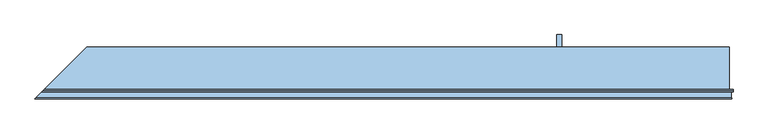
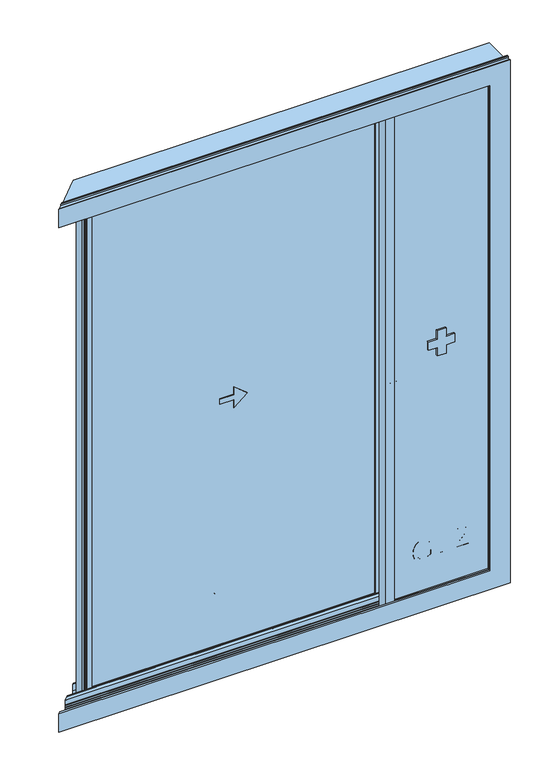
"""IFC4 building model written with IfcOpenShell, lengths in millimetres: window geometry, XL_XHS-9_Hoek_Links_Metaglas : XL_XHS-9_Hoek_Links_Metaglas."""

from ifc_helpers import new_model, si_unit, point, frame, frame_2d, origin, place, context, project, spatial, polyline, circle_curve, trimmed, segment, composite_curve, outline, extrude, faceted_brep, source, transform, mapped, element, save


def window_269518a1(model_context):
    return source(origin(), model_context, "Body", "SolidModel", [
        extrude(outline(polyline([(269.2407462, -113.5122122), (281.7977849, -113.5122122), (281.7977849, -154.3225882), (244.2492959, -154.3225882), (232.4034957, -134.1749176), (228.4303702, -112.87455), (230.009197, -98.7877353), (234.7456777, -86.0559526), (242.4742653, -75.4793452), (253.0294129, -67.8580566), (265.6906849, -63.2503346), (279.7376457, -61.7144272), (293.8857741, -63.2442032), (307.0467525, -67.8335311), (318.0862781, -75.2923385), (325.8700479, -85.4305532), (330.486967, -97.7791255), (332.02594, -111.8690059), (328.4574846, -131.5139045), (318.5246708, -145.2849538), (301.9086673, -152.8755856), (298.6467803, -141.2995655), (310.2595886, -135.5728691), (316.9550409, -125.7872081), (319.4689012, -111.6728022), (316.7588372, -95.596359), (309.646452, -84.658001), (299.9711555, -78.1955406), (280.2526805, -74.271466), (258.3637018, -78.9926183), (245.2671028, -92.7268794), (240.9874089, -111.8690059), (244.2125077, -129.0490951), (251.0919011, -141.7655494), (269.2407462, -141.7655494), (269.2407462, -113.5122122)])), frame((0.0, 101.0, 0.0), z_axis=(0.0, 1.0, 0.0), x_axis=(0.0, 0.0, 1.0)), (0.0, 0.0, 1.0), 5.0),
        extrude(outline(polyline([(230.0, -174.7277762), (330.4563101, -174.7277762), (330.4563101, -187.2848149), (242.5570388, -187.2848149), (242.5570388, -237.51297), (230.0, -237.51297), (230.0, -174.7277762)])), frame((0.0, 101.0, 0.0), z_axis=(0.0, 1.0, 0.0), x_axis=(0.0, 0.0, 1.0)), (0.0, 0.0, 1.0), 5.0),
        extrude(outline(polyline([(242.5570388, -311.2855728), (230.0, -311.2855728), (230.0, -245.3611192), (238.6574896, -246.7100199), (251.9870806, -254.3497026), (266.5429449, -270.0827893), (287.4631676, -291.7510388), (301.6879381, -297.1589041), (313.2026446, -292.0453444), (317.8992714, -278.691228), (313.3130092, -264.7730258), (300.6333431, -259.4877878), (302.2029729, -246.9307491), (314.3492101, -249.9749726), (323.2212976, -256.5569946), (328.647557, -266.3334586), (330.4563101, -278.9610081), (328.4452219, -291.6805281), (322.4119572, -301.438598), (313.3988483, -307.6466067), (302.4482276, -309.7159429), (290.5411137, -307.4841255), (278.2293296, -300.0651719), (261.0247149, -282.0757423), (248.9459228, -267.6302427), (242.5570388, -261.9648599), (242.5570388, -311.2855728)])), frame((0.0, 101.0, 0.0), z_axis=(0.0, 1.0, 0.0), x_axis=(0.0, 0.0, 1.0)), (0.0, 0.0, 1.0), 5.0),
        extrude(outline(polyline([(80.0, -837.0), (80.0, 464.0), (2422.0, 464.0), (2422.0, -837.0), (80.0, -837.0)]), holes=[polyline([(2409.0, -824.0), (2409.0, 451.0), (93.0, 451.0), (93.0, -824.0), (2409.0, -824.0)])]), frame((0.0, 76.0, 0.0), z_axis=(0.0, 1.0, 0.0), x_axis=(0.0, 0.0, 1.0)), (0.0, 0.0, 1.0), 25.0),
        extrude(outline(polyline([(464.0, 104.0), (-837.0, 104.0), (-837.0, 107.0), (464.0, 107.0), (464.0, 104.0)])), frame((0.0, 0.0, 80.0), z_axis=(0.0, 0.0, 1.0), x_axis=(1.0, 0.0, 0.0)), (0.0, 0.0, 1.0), 2342.0),
        extrude(outline(polyline([(464.0, 101.0), (-837.0, 101.0), (-837.0, 104.0), (464.0, 104.0), (464.0, 101.0)])), frame((0.0, 0.0, 80.0), z_axis=(0.0, 0.0, 1.0), x_axis=(1.0, 0.0, 0.0)), (0.0, 0.0, 1.0), 2342.0),
        extrude(outline(polyline([(464.0, 68.0), (-837.0, 68.0), (-837.0, 72.0), (464.0, 72.0), (464.0, 68.0)])), frame((0.0, 0.0, 80.0), z_axis=(0.0, 0.0, 1.0), x_axis=(1.0, 0.0, 0.0)), (0.0, 0.0, 1.0), 2342.0),
        extrude(outline(polyline([(464.0, 72.0), (-837.0, 72.0), (-837.0, 76.0), (464.0, 76.0), (464.0, 72.0)])), frame((0.0, 0.0, 80.0), z_axis=(0.0, 0.0, 1.0), x_axis=(1.0, 0.0, 0.0)), (0.0, 0.0, 1.0), 2342.0),
        faceted_brep([(465.0, 76.0, 79.0), (465.0, 104.5, 79.0), (-838.0, 104.5, 79.0), (-838.0, 76.0, 79.0), (471.0, 102.3, 73.0), (471.0, 76.0, 73.0), (-844.0, 76.0, 73.0), (-844.0, 102.3, 73.0), (477.5, 76.0, 66.5), (477.5, 102.3, 66.5), (-850.5, 102.3, 66.5), (-850.5, 76.0, 66.5), (483.5, 104.5, 60.5), (483.5, 76.0, 60.5), (-856.5, 76.0, 60.5), (-856.5, 104.5, 60.5), (-838.0, 104.5, 2423.0), (-838.0, 76.0, 2423.0), (-844.0, 76.0, 2429.0), (-844.0, 102.3, 2429.0), (-850.5, 102.3, 2435.5), (-850.5, 76.0, 2435.5), (-856.5, 76.0, 2441.5), (-856.5, 104.5, 2441.5), (465.0, 104.5, 2423.0), (465.0, 76.0, 2423.0), (471.0, 76.0, 2429.0), (471.0, 102.3, 2429.0), (477.5, 102.3, 2435.5), (477.5, 76.0, 2435.5), (483.5, 76.0, 2441.5), (483.5, 104.5, 2441.5)], [[[0, 1, 2, 3]], [[4, 5, 6, 7]], [[8, 9, 10, 11]], [[12, 13, 14, 15]], [[3, 2, 16, 17]], [[7, 6, 18, 19]], [[11, 10, 20, 21]], [[15, 14, 22, 23]], [[17, 16, 24, 25]], [[19, 18, 26, 27]], [[21, 20, 28, 29]], [[23, 22, 30, 31]], [[15, 23, 31, 12], [1, 24, 16, 2]], [[25, 24, 1, 0]], [[5, 26, 18, 6], [3, 17, 25, 0]], [[27, 26, 5, 4]], [[9, 28, 20, 10], [7, 19, 27, 4]], [[29, 28, 9, 8]], [[13, 30, 22, 14], [11, 21, 29, 8]], [[31, 30, 13, 12]]]),
        faceted_brep([(451.5, 64.0, 92.5), (451.5, 74.5, 92.5), (-824.5, 74.5, 92.5), (-824.5, 64.0, 92.5), (477.5, 65.5, 66.5), (477.5, 64.0, 66.5), (-850.5, 64.0, 66.5), (-850.5, 65.5, 66.5), (469.5, 69.5, 74.5), (469.5, 65.5, 74.5), (-842.5, 65.5, 74.5), (-842.5, 69.5, 74.5), (477.5, 83.0, 66.5), (477.5, 69.5, 66.5), (-850.5, 69.5, 66.5), (-850.5, 83.0, 66.5), (476.0, 78.0, 68.0), (476.0, 83.0, 68.0), (-849.0, 83.0, 68.0), (-849.0, 78.0, 68.0), (473.0, 96.0, 71.0), (473.0, 78.0, 71.0), (-846.0, 78.0, 71.0), (-846.0, 96.0, 71.0), (476.0, 91.0, 68.0), (476.0, 96.0, 68.0), (-849.0, 96.0, 68.0), (-849.0, 91.0, 68.0), (477.5, 98.0, 66.5), (477.5, 91.0, 66.5), (-850.5, 91.0, 66.5), (-850.5, 98.0, 66.5), (471.5, 76.0, 72.5), (471.5, 98.0, 72.5), (-844.5, 98.0, 72.5), (-844.5, 76.0, 72.5), (474.0, 71.5, 70.0), (474.0, 76.0, 70.0), (-847.0, 76.0, 70.0), (-847.0, 71.5, 70.0), (467.5, 69.3, 76.5), (467.5, 71.5, 76.5), (-840.5, 71.5, 76.5), (-840.5, 69.3, 76.5), (464.5, 67.8, 79.5), (464.5, 69.3, 79.5), (-837.5, 69.3, 79.5), (-837.5, 67.8, 79.5), (467.5, 65.5, 76.5), (467.5, 67.8, 76.5), (-840.5, 67.8, 76.5), (-840.5, 65.5, 76.5), (453.5, 67.8, 90.5), (453.5, 65.5, 90.5), (-826.5, 65.5, 90.5), (-826.5, 67.8, 90.5), (455.5, 69.3, 88.5), (455.5, 67.8, 88.5), (-828.5, 67.8, 88.5), (-828.5, 69.3, 88.5), (453.5, 72.5, 90.5), (453.5, 69.3, 90.5), (-826.5, 69.3, 90.5), (-826.5, 72.5, 90.5), (461.5, 74.5, 82.5), (461.5, 72.5, 82.5), (-834.5, 72.5, 82.5), (-834.5, 74.5, 82.5), (-824.5, 74.5, 2409.5), (-824.5, 64.0, 2409.5), (-850.5, 64.0, 2435.5), (-850.5, 65.5, 2435.5), (-842.5, 65.5, 2427.5), (-842.5, 69.5, 2427.5), (-850.5, 69.5, 2435.5), (-850.5, 83.0, 2435.5), (-849.0, 83.0, 2434.0), (-849.0, 78.0, 2434.0), (-846.0, 78.0, 2431.0), (-846.0, 96.0, 2431.0), (-849.0, 96.0, 2434.0), (-849.0, 91.0, 2434.0), (-850.5, 91.0, 2435.5), (-850.5, 98.0, 2435.5), (-844.5, 98.0, 2429.5), (-844.5, 76.0, 2429.5), (-847.0, 76.0, 2432.0), (-847.0, 71.5, 2432.0), (-840.5, 71.5, 2425.5), (-840.5, 69.3, 2425.5), (-837.5, 69.3, 2422.5), (-837.5, 67.8, 2422.5), (-840.5, 67.8, 2425.5), (-840.5, 65.5, 2425.5), (-826.5, 65.5, 2411.5), (-826.5, 67.8, 2411.5), (-828.5, 67.8, 2413.5), (-828.5, 69.3, 2413.5), (-826.5, 69.3, 2411.5), (-826.5, 72.5, 2411.5), (-834.5, 72.5, 2419.5), (-834.5, 74.5, 2419.5), (451.5, 74.5, 2409.5), (451.5, 64.0, 2409.5), (477.5, 64.0, 2435.5), (477.5, 65.5, 2435.5), (469.5, 65.5, 2427.5), (469.5, 69.5, 2427.5), (477.5, 69.5, 2435.5), (477.5, 83.0, 2435.5), (476.0, 83.0, 2434.0), (476.0, 78.0, 2434.0), (473.0, 78.0, 2431.0), (473.0, 96.0, 2431.0), (476.0, 96.0, 2434.0), (476.0, 91.0, 2434.0), (477.5, 91.0, 2435.5), (477.5, 98.0, 2435.5), (471.5, 98.0, 2429.5), (471.5, 76.0, 2429.5), (474.0, 76.0, 2432.0), (474.0, 71.5, 2432.0), (467.5, 71.5, 2425.5), (467.5, 69.3, 2425.5), (464.5, 69.3, 2422.5), (464.5, 67.8, 2422.5), (467.5, 67.8, 2425.5), (467.5, 65.5, 2425.5), (453.5, 65.5, 2411.5), (453.5, 67.8, 2411.5), (455.5, 67.8, 2413.5), (455.5, 69.3, 2413.5), (453.5, 69.3, 2411.5), (453.5, 72.5, 2411.5), (461.5, 72.5, 2419.5), (461.5, 74.5, 2419.5)], [[[0, 1, 2, 3]], [[4, 5, 6, 7]], [[8, 9, 10, 11]], [[12, 13, 14, 15]], [[16, 17, 18, 19]], [[20, 21, 22, 23]], [[24, 25, 26, 27]], [[28, 29, 30, 31]], [[32, 33, 34, 35]], [[36, 37, 38, 39]], [[40, 41, 42, 43]], [[44, 45, 46, 47]], [[48, 49, 50, 51]], [[52, 53, 54, 55]], [[56, 57, 58, 59]], [[60, 61, 62, 63]], [[64, 65, 66, 67]], [[3, 2, 68, 69]], [[7, 6, 70, 71]], [[11, 10, 72, 73]], [[15, 14, 74, 75]], [[19, 18, 76, 77]], [[23, 22, 78, 79]], [[27, 26, 80, 81]], [[31, 30, 82, 83]], [[35, 34, 84, 85]], [[39, 38, 86, 87]], [[43, 42, 88, 89]], [[47, 46, 90, 91]], [[51, 50, 92, 93]], [[55, 54, 94, 95]], [[59, 58, 96, 97]], [[63, 62, 98, 99]], [[67, 66, 100, 101]], [[69, 68, 102, 103]], [[71, 70, 104, 105]], [[73, 72, 106, 107]], [[75, 74, 108, 109]], [[77, 76, 110, 111]], [[79, 78, 112, 113]], [[81, 80, 114, 115]], [[83, 82, 116, 117]], [[85, 84, 118, 119]], [[87, 86, 120, 121]], [[89, 88, 122, 123]], [[91, 90, 124, 125]], [[93, 92, 126, 127]], [[95, 94, 128, 129]], [[97, 96, 130, 131]], [[99, 98, 132, 133]], [[101, 100, 134, 135]], [[103, 102, 1, 0]], [[5, 104, 70, 6], [3, 69, 103, 0]], [[105, 104, 5, 4]], [[7, 71, 105, 4], [9, 106, 72, 10]], [[107, 106, 9, 8]], [[13, 108, 74, 14], [11, 73, 107, 8]], [[109, 108, 13, 12]], [[15, 75, 109, 12], [17, 110, 76, 18]], [[111, 110, 17, 16]], [[19, 77, 111, 16], [21, 112, 78, 22]], [[113, 112, 21, 20]], [[25, 114, 80, 26], [23, 79, 113, 20]], [[115, 114, 25, 24]], [[29, 116, 82, 30], [27, 81, 115, 24]], [[117, 116, 29, 28]], [[31, 83, 117, 28], [33, 118, 84, 34]], [[119, 118, 33, 32]], [[37, 120, 86, 38], [35, 85, 119, 32]], [[121, 120, 37, 36]], [[39, 87, 121, 36], [41, 122, 88, 42]], [[123, 122, 41, 40]], [[43, 89, 123, 40], [45, 124, 90, 46]], [[125, 124, 45, 44]], [[49, 126, 92, 50], [47, 91, 125, 44]], [[127, 126, 49, 48]], [[51, 93, 127, 48], [53, 128, 94, 54]], [[129, 128, 53, 52]], [[57, 130, 96, 58], [55, 95, 129, 52]], [[131, 130, 57, 56]], [[59, 97, 131, 56], [61, 132, 98, 62]], [[133, 132, 61, 60]], [[65, 134, 100, 66], [63, 99, 133, 60]], [[135, 134, 65, 64]], [[67, 101, 135, 64], [1, 102, 68, 2]]]),
        faceted_brep([(451.0, 110.0, 2409.0), (451.0, 116.0, 2409.0), (451.0, 116.0, 93.0), (451.0, 110.0, 93.0), (466.1, 113.5, 2424.1), (466.1, 110.0, 2424.1), (466.1, 110.0, 77.9), (466.1, 113.5, 77.9), (483.6, 69.5, 2441.6), (483.6, 113.5, 2441.6), (483.6, 113.5, 60.4), (483.6, 69.5, 60.4), (493.0, 116.0, 2451.0), (493.0, 69.5, 2451.0), (493.0, 69.5, 51.0), (493.0, 116.0, 51.0), (-824.0, 116.0, 93.0), (-824.0, 110.0, 93.0), (-839.1, 110.0, 77.9), (-839.1, 113.5, 77.9), (-856.6, 113.5, 60.4), (-856.6, 69.5, 60.4), (-866.0, 69.5, 51.0), (-866.0, 116.0, 51.0), (-824.0, 116.0, 2409.0), (-824.0, 110.0, 2409.0), (-839.1, 110.0, 2424.1), (-839.1, 113.5, 2424.1), (-856.6, 113.5, 2441.6), (-856.6, 69.5, 2441.6), (-866.0, 69.5, 2451.0), (-866.0, 116.0, 2451.0)], [[[0, 1, 2, 3]], [[4, 5, 6, 7]], [[8, 9, 10, 11]], [[12, 13, 14, 15]], [[3, 2, 16, 17]], [[7, 6, 18, 19]], [[11, 10, 20, 21]], [[15, 14, 22, 23]], [[17, 16, 24, 25]], [[19, 18, 26, 27]], [[21, 20, 28, 29]], [[23, 22, 30, 31]], [[25, 24, 1, 0]], [[5, 26, 18, 6], [3, 17, 25, 0]], [[27, 26, 5, 4]], [[9, 28, 20, 10], [7, 19, 27, 4]], [[29, 28, 9, 8]], [[13, 30, 22, 14], [11, 21, 29, 8]], [[31, 30, 13, 12]], [[15, 23, 31, 12], [1, 24, 16, 2]]]),
        extrude(outline(polyline([(269.2407462, 632.5122122), (269.2407462, 660.7655494), (251.0919011, 660.7655494), (244.2125077, 648.0490951), (240.9874089, 630.8690059), (245.2671028, 611.7268794), (258.3637018, 597.9926183), (280.2526805, 593.271466), (299.9711555, 597.1955406), (309.646452, 603.658001), (316.7588372, 614.596359), (319.4689012, 630.6728022), (316.9550409, 644.7872081), (310.2595886, 654.5728691), (298.6467803, 660.2995655), (301.9086673, 671.8755856), (318.5246708, 664.2849538), (328.4574846, 650.5139045), (332.02594, 630.8690059), (330.486967, 616.7791255), (325.8700479, 604.4305532), (318.0862781, 594.2923385), (307.0467525, 586.8335311), (293.8857741, 582.2442032), (279.7376457, 580.7144272), (265.6906849, 582.2503346), (253.0294129, 586.8580566), (242.4742653, 594.4793452), (234.7456777, 605.0559526), (230.009197, 617.7877353), (228.4303702, 631.87455), (232.4034957, 653.1749176), (244.2492959, 673.3225882), (281.7977849, 673.3225882), (281.7977849, 632.5122122), (269.2407462, 632.5122122)])), frame((0.0, -6.0, 0.0), z_axis=(0.0, 1.0, 0.0), x_axis=(0.0, 0.0, 1.0)), (0.0, 0.0, 1.0), 5.0),
        extrude(outline(polyline([(230.0, 693.7277762), (230.0, 756.51297), (242.5570388, 756.51297), (242.5570388, 706.2848149), (330.4563101, 706.2848149), (330.4563101, 693.7277762), (230.0, 693.7277762)])), frame((0.0, -6.0, 0.0), z_axis=(0.0, 1.0, 0.0), x_axis=(0.0, 0.0, 1.0)), (0.0, 0.0, 1.0), 5.0),
        extrude(outline(polyline([(242.5570388, 830.2855728), (242.5570388, 780.9648599), (248.9459228, 786.6302427), (261.0247149, 801.0757423), (278.2293296, 819.0651719), (290.5411137, 826.4841255), (302.4482276, 828.7159429), (313.3988483, 826.6466067), (322.4119572, 820.438598), (328.4452219, 810.6805281), (330.4563101, 797.9610081), (328.647557, 785.3334586), (323.2212976, 775.5569946), (314.3492101, 768.9749726), (302.2029729, 765.9307491), (300.6333431, 778.4877878), (313.3130092, 783.7730258), (317.8992714, 797.691228), (313.2026446, 811.0453444), (301.6879381, 816.1589041), (287.4631676, 810.7510388), (266.5429449, 789.0827893), (251.9870806, 773.3497026), (238.6574896, 765.7100199), (230.0, 764.3611192), (230.0, 830.2855728), (242.5570388, 830.2855728)])), frame((0.0, -6.0, 0.0), z_axis=(0.0, 1.0, 0.0), x_axis=(0.0, 0.0, 1.0)), (0.0, 0.0, 1.0), 5.0),
        extrude(outline(polyline([(2422.0, 931.0), (2422.0, 480.0), (80.0, 480.0), (80.0, 931.0), (2422.0, 931.0)]), holes=[polyline([(93.0, 918.0), (93.0, 493.0), (2409.0, 493.0), (2409.0, 918.0), (93.0, 918.0)])]), frame((0.0, -1.0, 0.0), z_axis=(0.0, 1.0, 0.0), x_axis=(0.0, 0.0, 1.0)), (0.0, 0.0, 1.0), 25.0),
        extrude(outline(polyline([(480.0, -4.0), (931.0, -4.0), (931.0, -7.0), (480.0, -7.0), (480.0, -4.0)])), frame((0.0, 0.0, 80.0), z_axis=(0.0, 0.0, 1.0), x_axis=(1.0, 0.0, 0.0)), (0.0, 0.0, 1.0), 2342.0),
        extrude(outline(polyline([(480.0, -1.0), (931.0, -1.0), (931.0, -4.0), (480.0, -4.0), (480.0, -1.0)])), frame((0.0, 0.0, 80.0), z_axis=(0.0, 0.0, 1.0), x_axis=(1.0, 0.0, 0.0)), (0.0, 0.0, 1.0), 2342.0),
        extrude(outline(polyline([(480.0, 32.0), (931.0, 32.0), (931.0, 28.0), (480.0, 28.0), (480.0, 32.0)])), frame((0.0, 0.0, 80.0), z_axis=(0.0, 0.0, 1.0), x_axis=(1.0, 0.0, 0.0)), (0.0, 0.0, 1.0), 2342.0),
        extrude(outline(polyline([(480.0, 28.0), (931.0, 28.0), (931.0, 24.0), (480.0, 24.0), (480.0, 28.0)])), frame((0.0, 0.0, 80.0), z_axis=(0.0, 0.0, 1.0), x_axis=(1.0, 0.0, 0.0)), (0.0, 0.0, 1.0), 2342.0),
        faceted_brep([(479.0, 24.0, 79.0), (479.0, -4.5, 79.0), (932.0, -4.5, 79.0), (932.0, 24.0, 79.0), (473.0, -2.3, 73.0), (473.0, 24.0, 73.0), (938.0, 24.0, 73.0), (938.0, -2.3, 73.0), (466.5, 24.0, 66.5), (466.5, -2.3, 66.5), (944.5, -2.3, 66.5), (944.5, 24.0, 66.5), (460.5, -4.5, 60.5), (460.5, 24.0, 60.5), (950.5, 24.0, 60.5), (950.5, -4.5, 60.5), (932.0, -4.5, 2423.0), (932.0, 24.0, 2423.0), (938.0, 24.0, 2429.0), (938.0, -2.3, 2429.0), (944.5, -2.3, 2435.5), (944.5, 24.0, 2435.5), (950.5, 24.0, 2441.5), (950.5, -4.5, 2441.5), (479.0, -4.5, 2423.0), (479.0, 24.0, 2423.0), (473.0, 24.0, 2429.0), (473.0, -2.3, 2429.0), (466.5, -2.3, 2435.5), (466.5, 24.0, 2435.5), (460.5, 24.0, 2441.5), (460.5, -4.5, 2441.5)], [[[0, 1, 2, 3]], [[4, 5, 6, 7]], [[8, 9, 10, 11]], [[12, 13, 14, 15]], [[3, 2, 16, 17]], [[7, 6, 18, 19]], [[11, 10, 20, 21]], [[15, 14, 22, 23]], [[17, 16, 24, 25]], [[19, 18, 26, 27]], [[21, 20, 28, 29]], [[23, 22, 30, 31]], [[15, 23, 31, 12], [1, 24, 16, 2]], [[25, 24, 1, 0]], [[5, 26, 18, 6], [3, 17, 25, 0]], [[27, 26, 5, 4]], [[9, 28, 20, 10], [7, 19, 27, 4]], [[29, 28, 9, 8]], [[13, 30, 22, 14], [11, 21, 29, 8]], [[31, 30, 13, 12]]]),
        faceted_brep([(492.5, 36.0, 92.5), (492.5, 25.5, 92.5), (918.5, 25.5, 92.5), (918.5, 36.0, 92.5), (466.5, 34.5, 66.5), (466.5, 36.0, 66.5), (944.5, 36.0, 66.5), (944.5, 34.5, 66.5), (474.5, 30.5, 74.5), (474.5, 34.5, 74.5), (936.5, 34.5, 74.5), (936.5, 30.5, 74.5), (466.5, 17.0, 66.5), (466.5, 30.5, 66.5), (944.5, 30.5, 66.5), (944.5, 17.0, 66.5), (468.0, 22.0, 68.0), (468.0, 17.0, 68.0), (943.0, 17.0, 68.0), (943.0, 22.0, 68.0), (471.0, 4.0, 71.0), (471.0, 22.0, 71.0), (940.0, 22.0, 71.0), (940.0, 4.0, 71.0), (468.0, 9.0, 68.0), (468.0, 4.0, 68.0), (943.0, 4.0, 68.0), (943.0, 9.0, 68.0), (466.5, 2.0, 66.5), (466.5, 9.0, 66.5), (944.5, 9.0, 66.5), (944.5, 2.0, 66.5), (472.5, 24.0, 72.5), (472.5, 2.0, 72.5), (938.5, 2.0, 72.5), (938.5, 24.0, 72.5), (470.0, 28.5, 70.0), (470.0, 24.0, 70.0), (941.0, 24.0, 70.0), (941.0, 28.5, 70.0), (476.5, 30.7, 76.5), (476.5, 28.5, 76.5), (934.5, 28.5, 76.5), (934.5, 30.7, 76.5), (479.5, 32.2, 79.5), (479.5, 30.7, 79.5), (931.5, 30.7, 79.5), (931.5, 32.2, 79.5), (476.5, 34.5, 76.5), (476.5, 32.2, 76.5), (934.5, 32.2, 76.5), (934.5, 34.5, 76.5), (490.5, 32.2, 90.5), (490.5, 34.5, 90.5), (920.5, 34.5, 90.5), (920.5, 32.2, 90.5), (488.5, 30.7, 88.5), (488.5, 32.2, 88.5), (922.5, 32.2, 88.5), (922.5, 30.7, 88.5), (490.5, 27.5, 90.5), (490.5, 30.7, 90.5), (920.5, 30.7, 90.5), (920.5, 27.5, 90.5), (482.5, 25.5, 82.5), (482.5, 27.5, 82.5), (928.5, 27.5, 82.5), (928.5, 25.5, 82.5), (918.5, 25.5, 2409.5), (918.5, 36.0, 2409.5), (944.5, 36.0, 2435.5), (944.5, 34.5, 2435.5), (936.5, 34.5, 2427.5), (936.5, 30.5, 2427.5), (944.5, 30.5, 2435.5), (944.5, 17.0, 2435.5), (943.0, 17.0, 2434.0), (943.0, 22.0, 2434.0), (940.0, 22.0, 2431.0), (940.0, 4.0, 2431.0), (943.0, 4.0, 2434.0), (943.0, 9.0, 2434.0), (944.5, 9.0, 2435.5), (944.5, 2.0, 2435.5), (938.5, 2.0, 2429.5), (938.5, 24.0, 2429.5), (941.0, 24.0, 2432.0), (941.0, 28.5, 2432.0), (934.5, 28.5, 2425.5), (934.5, 30.7, 2425.5), (931.5, 30.7, 2422.5), (931.5, 32.2, 2422.5), (934.5, 32.2, 2425.5), (934.5, 34.5, 2425.5), (920.5, 34.5, 2411.5), (920.5, 32.2, 2411.5), (922.5, 32.2, 2413.5), (922.5, 30.7, 2413.5), (920.5, 30.7, 2411.5), (920.5, 27.5, 2411.5), (928.5, 27.5, 2419.5), (928.5, 25.5, 2419.5), (492.5, 25.5, 2409.5), (492.5, 36.0, 2409.5), (466.5, 36.0, 2435.5), (466.5, 34.5, 2435.5), (474.5, 34.5, 2427.5), (474.5, 30.5, 2427.5), (466.5, 30.5, 2435.5), (466.5, 17.0, 2435.5), (468.0, 17.0, 2434.0), (468.0, 22.0, 2434.0), (471.0, 22.0, 2431.0), (471.0, 4.0, 2431.0), (468.0, 4.0, 2434.0), (468.0, 9.0, 2434.0), (466.5, 9.0, 2435.5), (466.5, 2.0, 2435.5), (472.5, 2.0, 2429.5), (472.5, 24.0, 2429.5), (470.0, 24.0, 2432.0), (470.0, 28.5, 2432.0), (476.5, 28.5, 2425.5), (476.5, 30.7, 2425.5), (479.5, 30.7, 2422.5), (479.5, 32.2, 2422.5), (476.5, 32.2, 2425.5), (476.5, 34.5, 2425.5), (490.5, 34.5, 2411.5), (490.5, 32.2, 2411.5), (488.5, 32.2, 2413.5), (488.5, 30.7, 2413.5), (490.5, 30.7, 2411.5), (490.5, 27.5, 2411.5), (482.5, 27.5, 2419.5), (482.5, 25.5, 2419.5)], [[[0, 1, 2, 3]], [[4, 5, 6, 7]], [[8, 9, 10, 11]], [[12, 13, 14, 15]], [[16, 17, 18, 19]], [[20, 21, 22, 23]], [[24, 25, 26, 27]], [[28, 29, 30, 31]], [[32, 33, 34, 35]], [[36, 37, 38, 39]], [[40, 41, 42, 43]], [[44, 45, 46, 47]], [[48, 49, 50, 51]], [[52, 53, 54, 55]], [[56, 57, 58, 59]], [[60, 61, 62, 63]], [[64, 65, 66, 67]], [[3, 2, 68, 69]], [[7, 6, 70, 71]], [[11, 10, 72, 73]], [[15, 14, 74, 75]], [[19, 18, 76, 77]], [[23, 22, 78, 79]], [[27, 26, 80, 81]], [[31, 30, 82, 83]], [[35, 34, 84, 85]], [[39, 38, 86, 87]], [[43, 42, 88, 89]], [[47, 46, 90, 91]], [[51, 50, 92, 93]], [[55, 54, 94, 95]], [[59, 58, 96, 97]], [[63, 62, 98, 99]], [[67, 66, 100, 101]], [[69, 68, 102, 103]], [[71, 70, 104, 105]], [[73, 72, 106, 107]], [[75, 74, 108, 109]], [[77, 76, 110, 111]], [[79, 78, 112, 113]], [[81, 80, 114, 115]], [[83, 82, 116, 117]], [[85, 84, 118, 119]], [[87, 86, 120, 121]], [[89, 88, 122, 123]], [[91, 90, 124, 125]], [[93, 92, 126, 127]], [[95, 94, 128, 129]], [[97, 96, 130, 131]], [[99, 98, 132, 133]], [[101, 100, 134, 135]], [[103, 102, 1, 0]], [[5, 104, 70, 6], [3, 69, 103, 0]], [[105, 104, 5, 4]], [[7, 71, 105, 4], [9, 106, 72, 10]], [[107, 106, 9, 8]], [[13, 108, 74, 14], [11, 73, 107, 8]], [[109, 108, 13, 12]], [[15, 75, 109, 12], [17, 110, 76, 18]], [[111, 110, 17, 16]], [[19, 77, 111, 16], [21, 112, 78, 22]], [[113, 112, 21, 20]], [[25, 114, 80, 26], [23, 79, 113, 20]], [[115, 114, 25, 24]], [[29, 116, 82, 30], [27, 81, 115, 24]], [[117, 116, 29, 28]], [[31, 83, 117, 28], [33, 118, 84, 34]], [[119, 118, 33, 32]], [[37, 120, 86, 38], [35, 85, 119, 32]], [[121, 120, 37, 36]], [[39, 87, 121, 36], [41, 122, 88, 42]], [[123, 122, 41, 40]], [[43, 89, 123, 40], [45, 124, 90, 46]], [[125, 124, 45, 44]], [[49, 126, 92, 50], [47, 91, 125, 44]], [[127, 126, 49, 48]], [[51, 93, 127, 48], [53, 128, 94, 54]], [[129, 128, 53, 52]], [[57, 130, 96, 58], [55, 95, 129, 52]], [[131, 130, 57, 56]], [[59, 97, 131, 56], [61, 132, 98, 62]], [[133, 132, 61, 60]], [[65, 134, 100, 66], [63, 99, 133, 60]], [[135, 134, 65, 64]], [[67, 101, 135, 64], [1, 102, 68, 2]]]),
        faceted_brep([(493.0, -10.0, 2409.0), (493.0, -16.0, 2409.0), (493.0, -16.0, 93.0), (493.0, -10.0, 93.0), (477.9, -13.5, 2424.1), (477.9, -10.0, 2424.1), (477.9, -10.0, 77.9), (477.9, -13.5, 77.9), (460.4, 30.5, 2441.6), (460.4, -13.5, 2441.6), (460.4, -13.5, 60.4), (460.4, 30.5, 60.4), (451.0, -16.0, 2451.0), (451.0, 30.5, 2451.0), (451.0, 30.5, 51.0), (451.0, -16.0, 51.0), (918.0, -16.0, 93.0), (918.0, -10.0, 93.0), (933.1, -10.0, 77.9), (933.1, -13.5, 77.9), (950.6, -13.5, 60.4), (950.6, 30.5, 60.4), (960.0, 30.5, 51.0), (960.0, -16.0, 51.0), (918.0, -16.0, 2409.0), (918.0, -10.0, 2409.0), (933.1, -10.0, 2424.1), (933.1, -13.5, 2424.1), (950.6, -13.5, 2441.6), (950.6, 30.5, 2441.6), (960.0, 30.5, 2451.0), (960.0, -16.0, 2451.0)], [[[0, 1, 2, 3]], [[4, 5, 6, 7]], [[8, 9, 10, 11]], [[12, 13, 14, 15]], [[3, 2, 16, 17]], [[7, 6, 18, 19]], [[11, 10, 20, 21]], [[15, 14, 22, 23]], [[17, 16, 24, 25]], [[19, 18, 26, 27]], [[21, 20, 28, 29]], [[23, 22, 30, 31]], [[25, 24, 1, 0]], [[5, 26, 18, 6], [3, 17, 25, 0]], [[27, 26, 5, 4]], [[9, 28, 20, 10], [7, 19, 27, 4]], [[29, 28, 9, 8]], [[13, 30, 22, 14], [11, 21, 29, 8]], [[31, 30, 13, 12]], [[15, 23, 31, 12], [1, 24, 16, 2]]]),
        extrude(outline(polyline([(1263.5, -248.8), (1238.5, -248.8), (1238.5, -186.5), (1201.6, -186.5), (1251.0, -124.2), (1300.4, -186.5), (1263.5, -186.5), (1263.5, -248.8)])), frame((0.0, 65.0, 0.0), z_axis=(0.0, 1.0, 0.0), x_axis=(0.0, 0.0, 1.0)), (0.0, 0.0, 1.0), 50.0),
        extrude(outline(polyline([(1311.0, 685.5), (1271.0, 685.5), (1271.0, 645.5), (1231.0, 645.5), (1231.0, 685.5), (1191.0, 685.5), (1191.0, 725.5), (1231.0, 725.5), (1231.0, 765.5), (1271.0, 765.5), (1271.0, 725.5), (1311.0, 725.5), (1311.0, 685.5)])), frame((0.0, -15.0, 0.0), z_axis=(0.0, 1.0, 0.0), x_axis=(0.0, 0.0, 1.0)), (0.0, 0.0, 1.0), 50.0),
        extrude(outline(composite_curve([segment(trimmed(circle_curve(frame_2d((55.1000008, 1090.0)), 10.0), [point((45.1000008, 1090.0))], [point((65.1000008, 1090.0))], False, "CARTESIAN"), True, "CONTINUOUS"), segment(trimmed(circle_curve(frame_2d((55.1000008, 1090.0)), 10.0), [point((65.1000008, 1090.0))], [point((45.1000008, 1090.0))], False, "CARTESIAN"), True, "CONTINUOUS")], self_intersect=False)), frame((510.0, 0.0, 0.0), z_axis=(1.0, 0.0, 0.0), x_axis=(0.0, 1.0, 0.0)), (0.0, 0.0, 1.0), 33.0),
        extrude(outline(polyline([(510.0, 81.1000008), (510.0, 95.1000008), (523.0, 95.1000008), (523.0, 81.1000008), (510.0, 81.1000008)])), frame((0.0, 0.0, 1107.0), z_axis=(0.0, 0.0, 1.0), x_axis=(1.0, 0.0, 0.0)), (0.0, 0.0, 1.0), 65.0),
        extrude(outline(polyline([(510.0, 160.1000008), (510.0, 43.1000008), (496.0, 43.1000008), (496.0, 160.1000008), (510.0, 160.1000008)])), frame((0.0, 0.0, 1064.5), z_axis=(0.0, 0.0, 1.0), x_axis=(1.0, 0.0, 0.0)), (0.0, 0.0, 1.0), 127.0),
        faceted_brep([(1011.0, 0.0, 0.0), (1011.0, -3.098316, 0.0), (992.5220194, -3.098316, 0.0), (992.5220194, 0.0, 0.0), (1011.0, 0.0, 2502.0), (1011.0, -3.098316, 2502.0), (-1003.098316, -3.098316, 2502.0), (-1003.098316, -3.098316, 2483.5220194), (992.5220194, -3.098316, 2483.5220194), (992.5220194, 124.0, 2483.5220194), (992.5220194, 124.0, 15.0), (992.5220194, 0.0, 15.0), (1000.0, 0.0, 15.0), (1000.0, 0.0, 2491.0), (-1000.0, 0.0, 2491.0), (-1000.0, 0.0, 2502.0), (-876.0, 124.0, 2483.5220194), (-876.0, 124.0, 2491.0), (1000.0, 124.0, 2491.0), (1000.0, 124.0, 15.0)], [[[0, 1, 2, 3]], [[1, 0, 4, 5]], [[2, 1, 5, 6, 7, 8]], [[2, 8, 9, 10, 11, 3]], [[4, 0, 3, 11, 12, 13, 14, 15]], [[10, 9, 16, 17, 18, 19]], [[12, 11, 10, 19]], [[18, 13, 12, 19]], [[9, 8, 7, 16]], [[13, 18, 17, 14]], [[5, 4, 15, 6]], [[17, 16, 7, 6, 15, 14]]]),
        faceted_brep([(918.0223637, 117.3999731, 2409.0223637), (918.0223637, 124.1999529, 2409.0223637), (918.0223637, 124.1999529, 92.9776363), (918.0223637, 117.3999731, 92.9776363), (-875.8000471, 124.1999529, 2409.0223637), (-875.8000471, 124.1999529, 2483.5220194), (992.5220194, 124.1999529, 2483.5220194), (992.5220194, 124.1999529, 18.4779806), (-875.8000471, 124.1999529, 18.4779806), (-875.8000471, 124.1999529, 92.9776363), (-882.6000269, 117.3999731, 92.9776363), (-882.6000269, 117.3999731, 62.4276508), (948.5723492, 117.3999731, 62.4276508), (948.5723492, 117.3999731, 2439.5723492), (-882.6000269, 117.3999731, 2439.5723492), (-882.6000269, 117.3999731, 2409.0223637), (948.5723492, 121.2000079, 2439.5723492), (948.5723492, 121.2000079, 62.4276508), (-878.7999921, 121.2000079, 62.4276508), (-878.7999921, 121.2000079, 29.4772921), (981.5227079, 121.2000079, 29.4772921), (981.5227079, 121.2000079, 2472.5227079), (-878.7999921, 121.2000079, 2472.5227079), (-878.7999921, 121.2000079, 2439.5723492), (981.5227079, 59.0483017, 2472.5227079), (981.5227079, 59.0483017, 29.4772921), (-940.9516983, 59.0483017, 29.4772921), (-940.9516983, 59.0483017, 51.0779861), (959.9220139, 59.0483017, 51.0779861), (959.9220139, 59.0483017, 2450.9220139), (-940.9516983, 59.0483017, 2450.9220139), (-940.9516983, 59.0483017, 2472.5227079), (959.9220139, 60.8984035, 2450.9220139), (959.9220139, 60.8984035, 51.0779861), (-939.1015965, 60.8984035, 51.0779861), (-939.1015965, 60.8984035, 58.9779806), (952.0220194, 60.8984035, 58.9779806), (952.0220194, 60.8984035, 2443.0220194), (-939.1015965, 60.8984035, 2443.0220194), (-939.1015965, 60.8984035, 2450.9220139), (952.0220194, 59.0483017, 2443.0220194), (952.0220194, 59.0483017, 58.9779806), (-940.9516983, 59.0483017, 58.9779806), (-940.9516983, 59.0483017, 65.4779739), (945.5220261, 59.0483017, 65.4779739), (945.5220261, 59.0483017, 2436.5220261), (-940.9516983, 59.0483017, 2436.5220261), (-940.9516983, 59.0483017, 2443.0220194), (945.5220261, 56.5499526, 2436.5220261), (945.5220261, 56.5499526, 65.4779739), (-943.4500474, 56.5499526, 65.4779739), (949.3220545, 55.0863721, 61.6779455), (949.3220545, 55.0863721, 2440.3220545), (-944.9136279, 55.0863721, 61.6779455), (949.3220545, 57.3106255, 61.6779455), (949.3220545, 57.3106255, 2440.3220545), (-942.6893745, 57.3106255, 61.6779455), (-942.6893745, 57.3106255, 58.419105), (952.580895, 57.3106255, 58.419105), (952.580895, 57.3106255, 2443.580895), (-942.6893745, 57.3106255, 2443.580895), (-942.6893745, 57.3106255, 2440.3220545), (952.580895, 41.3893251, 2443.580895), (952.580895, 41.3893251, 58.419105), (-958.6106749, 41.3893251, 58.419105), (-958.6106749, 41.3893251, 61.6999649), (949.3000351, 41.3893251, 61.6999649), (949.3000351, 41.3893251, 2440.3000351), (-958.6106749, 41.3893251, 2440.3000351), (-958.6106749, 41.3893251, 2443.580895), (949.3000351, 43.614503, 2440.3000351), (949.3000351, 43.614503, 61.6999649), (-956.385497, 43.614503, 61.6999649), (945.5000037, 42.1499991, 65.4999963), (945.5000037, 42.1499991, 2436.5000037), (-957.8500009, 42.1499991, 65.4999963), (945.5000037, 39.6516512, 65.4999963), (945.5000037, 39.6516512, 2436.5000037), (-960.3483488, 39.6516512, 65.4999963), (-960.3483488, 39.6516512, 59.0), (952.0, 39.6516512, 59.0), (952.0, 39.6516512, 2443.0), (-960.3483488, 39.6516512, 2443.0), (-960.3483488, 39.6516512, 2436.5000037), (952.0, 37.8015494, 2443.0), (952.0, 37.8015494, 59.0), (-962.1984506, 37.8015494, 59.0), (-962.1984506, 37.8015494, 51.1000055), (959.8999945, 37.8015494, 51.1000055), (959.8999945, 37.8015494, 2450.8999945), (-962.1984506, 37.8015494, 2450.8999945), (-962.1984506, 37.8015494, 2443.0), (959.8999945, 39.6516512, 2450.8999945), (959.8999945, 39.6516512, 51.1000055), (-960.3483488, 39.6516512, 51.1000055), (-960.3483488, 39.6516512, 29.5), (981.5, 39.6516512, 29.5), (981.5, 39.6516512, 2472.5), (-960.3483488, 39.6516512, 2472.5), (-960.3483488, 39.6516512, 2450.8999945), (981.5, -18.7, 29.5), (981.5, -18.7, 2472.5), (-1018.7, -18.7, 29.5), (-1018.7, -18.7, 65.5000426), (945.4999574, -18.7, 65.5000426), (945.4999574, -18.7, 2436.4999574), (-1018.7, -18.7, 2436.4999574), (-1018.7, -18.7, 2472.5), (945.4999574, -25.5, 2436.4999574), (945.4999574, -25.5, 65.5000426), (-1025.5, -25.5, 65.5000426), (-1025.5, -25.5, 16.4999574), (994.5000426, -25.5, 16.4999574), (994.5000426, -25.5, 2485.5000426), (-1025.5, -25.5, 2485.5000426), (-1025.5, -25.5, 2436.4999574), (994.5000426, -19.1982836, 2485.5000426), (994.5000426, -19.1982836, 16.4999574), (-1019.1982836, -19.1982836, 16.4999574), (-1019.1982836, -19.1982836, 18.5), (992.5, -19.1982836, 18.5), (992.5, -19.1982836, 2483.5), (-1019.1982836, -19.1982836, 2483.5), (-1019.1982836, -19.1982836, 2485.5000426), (992.5, -7.9, 2483.5), (992.5, -7.9, 18.5), (-1007.9, -7.9, 18.5), (-1007.9, -7.9, 0.0), (1011.0, -7.9, 0.0), (1011.0, -7.9, 2502.0), (-1007.9, -7.9, 2502.0), (-1007.9, -7.9, 2483.5), (1011.0, -3.098316, 2502.0), (1011.0, -3.098316, 0.0), (-1003.098316, -3.098316, 0.0), (-1003.098316, -3.098316, 8.4999915), (1002.5000085, -3.098316, 8.4999915), (1002.5000085, -3.098316, 2493.5000085), (-1003.098316, -3.098316, 2493.5000085), (-1003.098316, -3.098316, 2502.0), (1002.5000085, -6.148313, 2493.5000085), (1002.5000085, -6.148313, 8.4999915), (-1006.148313, -6.148313, 8.4999915), (-1006.148313, -6.148313, 18.5), (992.5, -6.148313, 18.5), (992.5, -6.148313, 2483.5), (-1006.148313, -6.148313, 2483.5), (-1006.148313, -6.148313, 2493.5000085), (992.5, 32.1507354, 2483.5), (992.5, 32.1507354, 18.5), (-967.8492646, 32.1507354, 18.5), (-967.8492646, 32.1507354, 15.200004), (995.799996, 32.1507354, 15.200004), (995.799996, 32.1507354, 2486.799996), (-967.8492646, 32.1507354, 2486.799996), (-967.8492646, 32.1507354, 2483.5), (995.799996, 39.0098616, 2486.799996), (995.799996, 39.0098616, 15.200004), (-960.9901384, 39.0098616, 15.200004), (992.3044731, 37.2288037, 18.6955269), (992.3044731, 37.2288037, 2483.3044731), (-962.7711963, 37.2288037, 18.6955269), (992.3044731, 61.4823672, 18.6955269), (992.3044731, 61.4823672, 2483.3044731), (-938.5176328, 61.4823672, 18.6955269), (995.8220381, 59.6900783, 15.1779619), (995.8220381, 59.6900783, 2486.8220381), (-940.3099217, 59.6900783, 15.1779619), (995.8220381, 66.5492354, 15.1779619), (995.8220381, 66.5492354, 2486.8220381), (-933.4507646, 66.5492354, 15.1779619), (-933.4507646, 66.5492354, 18.4779806), (992.5220194, 66.5492354, 18.4779806), (992.5220194, 66.5492354, 2483.5220194), (-933.4507646, 66.5492354, 2483.5220194), (-933.4507646, 66.5492354, 2486.8220381), (-943.4500474, 56.5499526, 2436.5220261), (-944.9136279, 55.0863721, 2440.3220545), (-956.385497, 43.614503, 2440.3000351), (-957.8500009, 42.1499991, 2436.5000037), (-960.9901384, 39.0098616, 2486.799996), (-962.7711963, 37.2288037, 2483.3044731), (-938.5176328, 61.4823672, 2483.3044731), (-940.3099217, 59.6900783, 2486.8220381)], [[[0, 1, 2, 3]], [[2, 1, 4, 5, 6, 7, 8, 9]], [[3, 2, 9, 10]], [[0, 3, 10, 11, 12, 13, 14, 15]], [[16, 13, 12, 17]], [[17, 12, 11, 18]], [[16, 17, 18, 19, 20, 21, 22, 23]], [[24, 21, 20, 25]], [[25, 20, 19, 26]], [[24, 25, 26, 27, 28, 29, 30, 31]], [[32, 29, 28, 33]], [[33, 28, 27, 34]], [[32, 33, 34, 35, 36, 37, 38, 39]], [[40, 37, 36, 41]], [[41, 36, 35, 42]], [[40, 41, 42, 43, 44, 45, 46, 47]], [[48, 45, 44, 49]], [[49, 44, 43, 50]], [[48, 49, 51, 52]], [[51, 49, 50, 53]], [[52, 51, 54, 55]], [[54, 51, 53, 56]], [[55, 54, 56, 57, 58, 59, 60, 61]], [[62, 59, 58, 63]], [[63, 58, 57, 64]], [[62, 63, 64, 65, 66, 67, 68, 69]], [[70, 67, 66, 71]], [[71, 66, 65, 72]], [[70, 71, 73, 74]], [[73, 71, 72, 75]], [[74, 73, 76, 77]], [[76, 73, 75, 78]], [[77, 76, 78, 79, 80, 81, 82, 83]], [[84, 81, 80, 85]], [[85, 80, 79, 86]], [[84, 85, 86, 87, 88, 89, 90, 91]], [[92, 89, 88, 93]], [[93, 88, 87, 94]], [[92, 93, 94, 95, 96, 97, 98, 99]], [[97, 96, 100, 101]], [[100, 96, 95, 102]], [[101, 100, 102, 103, 104, 105, 106, 107]], [[108, 105, 104, 109]], [[109, 104, 103, 110]], [[108, 109, 110, 111, 112, 113, 114, 115]], [[116, 113, 112, 117]], [[117, 112, 111, 118]], [[116, 117, 118, 119, 120, 121, 122, 123]], [[124, 121, 120, 125]], [[125, 120, 119, 126]], [[124, 125, 126, 127, 128, 129, 130, 131]], [[132, 129, 128, 133]], [[133, 128, 127, 134]], [[132, 133, 134, 135, 136, 137, 138, 139]], [[140, 137, 136, 141]], [[141, 136, 135, 142]], [[140, 141, 142, 143, 144, 145, 146, 147]], [[148, 145, 144, 149]], [[149, 144, 143, 150]], [[148, 149, 150, 151, 152, 153, 154, 155]], [[156, 153, 152, 157]], [[157, 152, 151, 158]], [[156, 157, 159, 160]], [[159, 157, 158, 161]], [[160, 159, 162, 163]], [[162, 159, 161, 164]], [[163, 162, 165, 166]], [[165, 162, 164, 167]], [[166, 165, 168, 169]], [[168, 165, 167, 170]], [[169, 168, 170, 171, 172, 173, 174, 175]], [[6, 173, 172, 7]], [[7, 172, 171, 8]], [[10, 9, 8, 171, 170, 167, 164, 161, 158, 151, 150, 143, 142, 135, 134, 127, 126, 119, 118, 111, 110, 103, 102, 95, 94, 87, 86, 79, 78, 75, 72, 65, 64, 57, 56, 53, 50, 43, 42, 35, 34, 27, 26, 19, 18, 11]], [[4, 15, 14, 23, 22, 31, 30, 39, 38, 47, 46, 176, 177, 61, 60, 69, 68, 178, 179, 83, 82, 91, 90, 99, 98, 107, 106, 115, 114, 123, 122, 131, 130, 139, 138, 147, 146, 155, 154, 180, 181, 182, 183, 175, 174, 5]], [[1, 0, 15, 4]], [[13, 16, 23, 14]], [[21, 24, 31, 22]], [[29, 32, 39, 30]], [[37, 40, 47, 38]], [[45, 48, 176, 46]], [[48, 52, 177, 176]], [[52, 55, 61, 177]], [[59, 62, 69, 60]], [[67, 70, 178, 68]], [[70, 74, 179, 178]], [[74, 77, 83, 179]], [[81, 84, 91, 82]], [[89, 92, 99, 90]], [[97, 101, 107, 98]], [[105, 108, 115, 106]], [[113, 116, 123, 114]], [[121, 124, 131, 122]], [[129, 132, 139, 130]], [[137, 140, 147, 138]], [[145, 148, 155, 146]], [[153, 156, 180, 154]], [[156, 160, 181, 180]], [[160, 163, 182, 181]], [[163, 166, 183, 182]], [[166, 169, 175, 183]], [[173, 6, 5, 174]]]),
        faceted_brep([(1007.5, -25.4982936, 2498.5), (1007.5, -28.0, 2498.5), (1007.5, -28.0, 3.5), (1007.5, -25.4982936, 3.5), (-1028.0, -28.0, 2498.5), (-1028.0, -28.0, 2409.0), (918.0, -28.0, 2409.0), (918.0, -28.0, 93.0), (-1028.0, -28.0, 93.0), (-1028.0, -28.0, 3.5), (-1025.4982936, -25.4982936, 3.5), (-1025.4982936, -25.4982936, 5.5), (1005.5, -25.4982936, 5.5), (1005.5, -25.4982936, 2496.5), (-1025.4982936, -25.4982936, 2496.5), (-1025.4982936, -25.4982936, 2498.5), (1005.5, -7.9982936, 2496.5), (1005.5, -7.9982936, 5.5), (-1007.9982936, -7.9982936, 5.5), (-1007.9982936, -7.9982936, 15.5), (995.5, -7.9982936, 15.5), (995.5, -7.9982936, 2486.5), (-1007.9982936, -7.9982936, 2486.5), (-1007.9982936, -7.9982936, 2496.5), (995.5, -8.9982936, 2486.5), (995.5, -8.9982936, 15.5), (-1008.9982936, -8.9982936, 15.5), (998.5, -9.9982936, 12.5), (998.5, -9.9982936, 2489.5), (-1009.9982936, -9.9982936, 12.5), (998.5, -22.9982936, 12.5), (998.5, -22.9982936, 2489.5), (-1022.9982936, -22.9982936, 12.5), (995.5, -23.9982936, 15.5), (995.5, -23.9982936, 2486.5), (-1023.9982936, -23.9982936, 15.5), (995.5, -25.5, 15.5), (995.5, -25.5, 2486.5), (-1025.5, -25.5, 15.5), (-1025.5, -25.5, 66.0000426), (944.9999574, -25.5, 66.0000426), (944.9999574, -25.5, 2435.9999574), (-1025.5, -25.5, 2435.9999574), (-1025.5, -25.5, 2486.5), (944.9999574, -20.5, 2435.9999574), (944.9999574, -20.5, 66.0000426), (-1020.5, -20.5, 66.0000426), (-1020.5, -20.5, 78.8000875), (932.1999125, -20.5, 78.8000875), (932.1999125, -20.5, 2423.1999125), (-1020.5, -20.5, 2423.1999125), (-1020.5, -20.5, 2435.9999574), (932.1999125, -18.7, 2423.1999125), (932.1999125, -18.7, 78.8000875), (-1018.7, -18.7, 78.8000875), (-1018.7, -18.7, 93.0), (918.0, -18.7, 93.0), (918.0, -18.7, 2409.0), (-1018.7, -18.7, 2409.0), (-1018.7, -18.7, 2423.1999125), (-1008.9982936, -8.9982936, 2486.5), (-1009.9982936, -9.9982936, 2489.5), (-1022.9982936, -22.9982936, 2489.5), (-1023.9982936, -23.9982936, 2486.5)], [[[0, 1, 2, 3]], [[2, 1, 4, 5, 6, 7, 8, 9]], [[3, 2, 9, 10]], [[0, 3, 10, 11, 12, 13, 14, 15]], [[16, 13, 12, 17]], [[17, 12, 11, 18]], [[16, 17, 18, 19, 20, 21, 22, 23]], [[24, 21, 20, 25]], [[25, 20, 19, 26]], [[24, 25, 27, 28]], [[27, 25, 26, 29]], [[28, 27, 30, 31]], [[30, 27, 29, 32]], [[31, 30, 33, 34]], [[33, 30, 32, 35]], [[34, 33, 36, 37]], [[36, 33, 35, 38]], [[37, 36, 38, 39, 40, 41, 42, 43]], [[44, 41, 40, 45]], [[45, 40, 39, 46]], [[44, 45, 46, 47, 48, 49, 50, 51]], [[52, 49, 48, 53]], [[53, 48, 47, 54]], [[52, 53, 54, 55, 56, 57, 58, 59]], [[6, 57, 56, 7]], [[7, 56, 55, 8]], [[10, 9, 8, 55, 54, 47, 46, 39, 38, 35, 32, 29, 26, 19, 18, 11]], [[5, 4, 15, 14, 23, 22, 60, 61, 62, 63, 43, 42, 51, 50, 59, 58]], [[1, 0, 15, 4]], [[13, 16, 23, 14]], [[21, 24, 60, 22]], [[24, 28, 61, 60]], [[28, 31, 62, 61]], [[31, 34, 63, 62]], [[34, 37, 43, 63]], [[41, 44, 51, 42]], [[49, 52, 59, 50]], [[57, 6, 5, 58]]]),
        faceted_brep([(939.5, 39.7499996, 2430.5), (939.5, 37.7500033, 2430.5), (939.5, 37.7500033, 71.5), (939.5, 39.7499996, 71.5), (-962.2499967, 37.7500033, 2430.5), (-962.2499967, 37.7500033, 2409.0000005), (918.0000005, 37.7500033, 2409.0000005), (918.0000005, 37.7500033, 92.9999995), (-962.2499967, 37.7500033, 92.9999995), (-962.2499967, 37.7500033, 71.5), (-960.2500004, 39.7499996, 71.5), (-960.2500004, 39.7499996, 65.6999995), (945.3000005, 39.7499996, 65.6999995), (945.3000005, 39.7499996, 2436.3000005), (-960.2500004, 39.7499996, 2436.3000005), (-960.2500004, 39.7499996, 2430.5), (945.3000005, 41.9500007, 2436.3000005), (945.3000005, 41.9500007, 65.6999995), (-958.0499993, 41.9500007, 65.6999995), (-958.0499993, 41.9500007, 60.0), (951.0, 41.9500007, 60.0), (951.0, 41.9500007, 2442.0), (-958.0499993, 41.9500007, 2442.0), (-958.0499993, 41.9500007, 2436.3000005), (951.0, 56.8499999, 2442.0), (951.0, 56.8499999, 60.0), (-943.1500001, 56.8499999, 60.0), (-943.1500001, 56.8499999, 65.6999997), (945.3000003, 56.8499999, 65.6999997), (945.3000003, 56.8499999, 2436.3000003), (-943.1500001, 56.8499999, 2436.3000003), (-943.1500001, 56.8499999, 2442.0), (945.3000003, 59.0500004, 2436.3000003), (945.3000003, 59.0500004, 65.6999997), (-940.9499996, 59.0500004, 65.6999997), (-940.9499996, 59.0500004, 71.5), (939.5, 59.0500004, 71.5), (939.5, 59.0500004, 2430.5), (-940.9499996, 59.0500004, 2430.5), (-940.9499996, 59.0500004, 2436.3000003), (939.5, 61.0499997, 2430.5), (939.5, 61.0499997, 71.5), (-938.9500003, 61.0499997, 71.5), (-938.9500003, 61.0499997, 92.9999997), (918.0000003, 61.0499997, 92.9999997), (918.0000003, 61.0499997, 2409.0000003), (-938.9500003, 61.0499997, 2409.0000003), (-938.9500003, 61.0499997, 2430.5), (918.0000003, 59.2500001, 2409.0000003), (918.0000003, 59.2500001, 92.9999997), (-940.7499999, 59.2500001, 92.9999997), (-940.7499999, 59.2500001, 90.8604908), (920.1395092, 59.2500001, 90.8604908), (920.1395092, 59.2500001, 2411.1395092), (-940.7499999, 59.2500001, 2411.1395092), (-940.7499999, 59.2500001, 2409.0000003), (921.0322045, 57.9750983, 2412.0322045), (921.0322045, 57.9750983, 89.9677955), (-942.0249017, 57.9750983, 89.9677955), (922.6071072, 59.5500005, 88.3928928), (922.6071072, 59.5500005, 2413.6071072), (-940.4499995, 59.5500005, 88.3928928), (-940.4499995, 59.5500005, 86.0000005), (924.9999995, 59.5500005, 86.0000005), (924.9999995, 59.5500005, 2415.9999995), (-940.4499995, 59.5500005, 2415.9999995), (-940.4499995, 59.5500005, 2413.6071072), (924.9999995, 39.2499995, 2415.9999995), (924.9999995, 39.2499995, 86.0000005), (-960.7500005, 39.2499995, 86.0000005), (-960.7500005, 39.2499995, 88.3100502), (922.6899498, 39.2499995, 88.3100502), (922.6899498, 39.2499995, 2413.6899498), (-960.7500005, 39.2499995, 2413.6899498), (-960.7500005, 39.2499995, 2415.9999995), (921.0322046, 40.8249019, 2412.0322046), (921.0322046, 40.8249019, 89.9677954), (-959.1750981, 40.8249019, 89.9677954), (920.1395089, 39.55, 90.8604911), (920.1395089, 39.55, 2411.1395089), (-960.45, 39.55, 90.8604911), (-960.45, 39.55, 92.9999995), (918.0000005, 39.55, 92.9999995), (918.0000005, 39.55, 2409.0000005), (-960.45, 39.55, 2409.0000005), (-960.45, 39.55, 2411.1395089), (-942.0249017, 57.9750983, 2412.0322045), (-959.1750981, 40.8249019, 2412.0322046)], [[[0, 1, 2, 3]], [[2, 1, 4, 5, 6, 7, 8, 9]], [[3, 2, 9, 10]], [[0, 3, 10, 11, 12, 13, 14, 15]], [[16, 13, 12, 17]], [[17, 12, 11, 18]], [[16, 17, 18, 19, 20, 21, 22, 23]], [[24, 21, 20, 25]], [[25, 20, 19, 26]], [[24, 25, 26, 27, 28, 29, 30, 31]], [[32, 29, 28, 33]], [[33, 28, 27, 34]], [[32, 33, 34, 35, 36, 37, 38, 39]], [[40, 37, 36, 41]], [[41, 36, 35, 42]], [[40, 41, 42, 43, 44, 45, 46, 47]], [[48, 45, 44, 49]], [[49, 44, 43, 50]], [[48, 49, 50, 51, 52, 53, 54, 55]], [[56, 53, 52, 57]], [[57, 52, 51, 58]], [[56, 57, 59, 60]], [[59, 57, 58, 61]], [[60, 59, 61, 62, 63, 64, 65, 66]], [[67, 64, 63, 68]], [[68, 63, 62, 69]], [[67, 68, 69, 70, 71, 72, 73, 74]], [[75, 72, 71, 76]], [[76, 71, 70, 77]], [[75, 76, 78, 79]], [[78, 76, 77, 80]], [[79, 78, 80, 81, 82, 83, 84, 85]], [[6, 83, 82, 7]], [[7, 82, 81, 8]], [[10, 9, 8, 81, 80, 77, 70, 69, 62, 61, 58, 51, 50, 43, 42, 35, 34, 27, 26, 19, 18, 11]], [[4, 15, 14, 23, 22, 31, 30, 39, 38, 47, 46, 55, 54, 86, 66, 65, 74, 73, 87, 85, 84, 5]], [[1, 0, 15, 4]], [[13, 16, 23, 14]], [[21, 24, 31, 22]], [[29, 32, 39, 30]], [[37, 40, 47, 38]], [[45, 48, 55, 46]], [[53, 56, 86, 54]], [[56, 60, 66, 86]], [[64, 67, 74, 65]], [[72, 75, 87, 73]], [[75, 79, 85, 87]], [[83, 6, 5, 84]]]),
        faceted_brep([(922.5545517, 59.0732051, 2413.5545517), (925.3660254, 57.45, 2416.3660254), (925.3660254, 57.45, 85.6339746), (922.5545517, 59.0732051, 88.4454483), (-942.55, 57.45, 2416.3660254), (-942.55, 57.45, 2409.8), (918.8, 57.45, 2409.8), (918.8, 57.45, 92.2), (-942.55, 57.45, 92.2), (-942.55, 57.45, 85.6339746), (-940.9267949, 59.0732051, 88.4454483), (921.1287187, 58.25, 89.8712813), (921.1287187, 58.25, 2412.1287187), (-941.75, 58.25, 89.8712813), (-941.75, 58.25, 92.2), (918.8, 58.25, 92.2), (918.8, 58.25, 2409.8), (-941.75, 58.25, 2409.8), (-941.75, 58.25, 2412.1287187), (918.8, 59.85, 2409.8), (918.8, 59.85, 92.2), (-940.15, 59.85, 92.2), (-940.15, 59.85, 93.0), (918.0, 59.85, 93.0), (918.0, 59.85, 2409.0), (-940.15, 59.85, 2409.0), (-940.15, 59.85, 2409.8), (918.0, 38.95, 2409.0), (918.0, 38.95, 93.0), (-961.05, 38.95, 93.0), (-961.05, 38.95, 92.2), (918.8, 38.95, 92.2), (918.8, 38.95, 2409.8), (-961.05, 38.95, 2409.8), (-961.05, 38.95, 2409.0), (918.8, 40.55, 2409.8), (918.8, 40.55, 92.2), (-959.45, 40.55, 92.2), (-959.45, 40.55, 89.8712813), (921.1287187, 40.55, 89.8712813), (921.1287187, 40.55, 2412.1287187), (-959.45, 40.55, 2412.1287187), (-959.45, 40.55, 2409.8), (922.5545517, 39.7267949, 2413.5545517), (922.5545517, 39.7267949, 88.4454483), (-960.2732051, 39.7267949, 88.4454483), (925.3660254, 41.35, 85.6339746), (925.3660254, 41.35, 2416.3660254), (-958.65, 41.35, 85.6339746), (-958.65, 41.35, 92.2), (918.8, 41.35, 92.2), (918.8, 41.35, 2409.8), (-958.65, 41.35, 2409.8), (-958.65, 41.35, 2416.3660254), (-940.9267949, 59.0732051, 2413.5545517), (-960.2732051, 39.7267949, 2413.5545517)], [[[0, 1, 2, 3]], [[2, 1, 4, 5, 6, 7, 8, 9]], [[3, 2, 9, 10]], [[0, 3, 11, 12]], [[11, 3, 10, 13]], [[12, 11, 13, 14, 15, 16, 17, 18]], [[19, 16, 15, 20]], [[20, 15, 14, 21]], [[19, 20, 21, 22, 23, 24, 25, 26]], [[27, 24, 23, 28]], [[28, 23, 22, 29]], [[27, 28, 29, 30, 31, 32, 33, 34]], [[35, 32, 31, 36]], [[36, 31, 30, 37]], [[35, 36, 37, 38, 39, 40, 41, 42]], [[43, 40, 39, 44]], [[44, 39, 38, 45]], [[43, 44, 46, 47]], [[46, 44, 45, 48]], [[47, 46, 48, 49, 50, 51, 52, 53]], [[6, 51, 50, 7]], [[7, 50, 49, 8]], [[10, 9, 8, 49, 48, 45, 38, 37, 30, 29, 22, 21, 14, 13]], [[5, 4, 54, 18, 17, 26, 25, 34, 33, 42, 41, 55, 53, 52]], [[1, 0, 54, 4]], [[0, 12, 18, 54]], [[16, 19, 26, 17]], [[24, 27, 34, 25]], [[32, 35, 42, 33]], [[40, 43, 55, 41]], [[43, 47, 53, 55]], [[51, 6, 5, 52]]]),
    ])


if __name__ == "__main__":
    model = new_model("IFC4")
    model_context = context("Model", 3, world=origin())
    ifc_project = project(units=[si_unit("LENGTHUNIT", "METRE", prefix="MILLI")], contexts=[model_context])
    site = spatial("IfcSite", under=ifc_project)
    building = spatial("IfcBuilding", under=site)
    placement = place(None, origin())
    window_shape = window_269518a1(model_context)
    element("IfcWindow", 1, ObjectType="XL_XHS-9_Hoek_Links_Metaglas : XL_XHS-9_Hoek_Links_Metaglas", at=placement, inside=building, context=model_context, shape_type="MappedRepresentation", body=[
        mapped(window_shape, transform((0.0, 0.0, 0.0), x_axis=(1.0, 0.0, 0.0), y_axis=(0.0, 1.0, 0.0), z_axis=(0.0, 0.0, 1.0))),
    ])
    save(model, "model.ifc")
